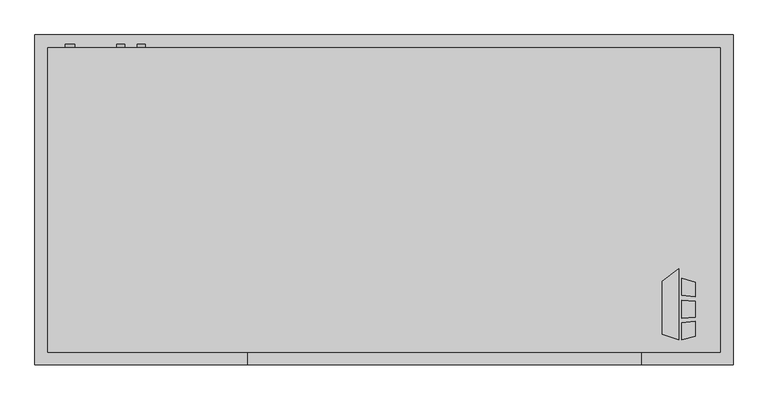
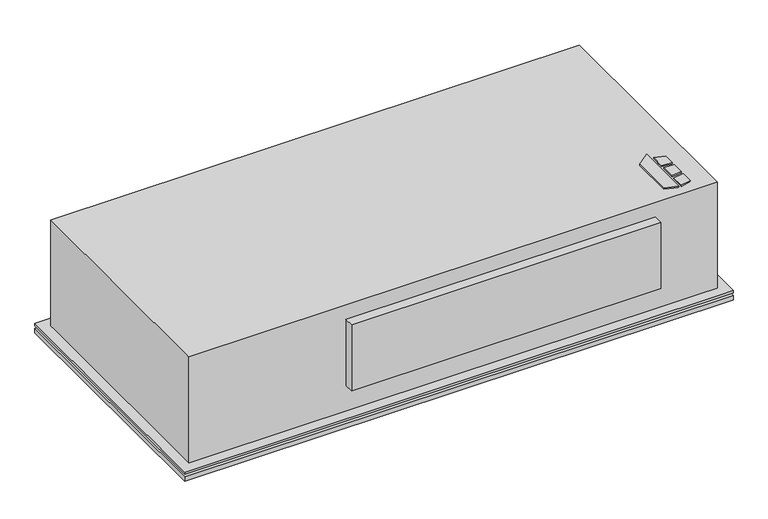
"""IFC4 building model written with IfcOpenShell, lengths in millimetres: proxy geometry, Horizontal_Telescoping_Fan_Coil_Unit_-_CBY_-_IEC_-_2-Pipe_Cool-EHeat_LH_2022 : Size 06 - 277v/60Hz/1Ph - 4 Row 6.0kW."""

from ifc_helpers import new_model, si_unit, point, frame, frame_2d, origin, origin_with_axes, place, context, project, spatial, polyline, circle_curve, trimmed, segment, composite_curve, outline, extrude, source, transform, mapped, element, save


def mechanical_equipment_a935bf6d(model_context):
    return source(origin(), model_context, "Body", "SweptSolid", [
        extrude(outline(polyline([(709.3019761, -401.0078476), (741.8602728, -375.5705184), (741.8602728, -517.525), (709.3019761, -507.3054201), (709.3019761, -401.0078476)])), origin_with_axes(), (0.0, 0.0, 1.0), 3.175),
        extrude(outline(polyline([(748.6186058, -428.879852), (748.6186058, -394.3999379), (774.7, -402.5865115), (774.7, -432.0822446), (748.6186058, -428.879852)])), origin_with_axes(), (0.0, 0.0, 1.0), 3.175),
        extrude(outline(polyline([(774.7, -510.5365115), (748.6186058, -517.525), (748.6186058, -484.3036996), (774.7, -480.7618564), (774.7, -510.5365115)])), origin_with_axes(), (0.0, 0.0, 1.0), 3.175),
        extrude(outline(polyline([(774.7, -441.1638277), (774.7, -472.413983), (748.6186058, -475.155248), (748.6186058, -439.2975378), (774.7, -441.1638277)])), origin_with_axes(), (0.0, 0.0, 1.0), 3.175),
        extrude(outline(composite_curve([segment(trimmed(circle_curve(frame_2d((-55.9967777, -333.375)), 7.9375), [point((-55.9967777, -325.4375))], [point((-55.9967777, -341.3125))], False, "CARTESIAN"), True, "CONTINUOUS"), segment(trimmed(circle_curve(frame_2d((-55.9967777, -333.375)), 7.9375), [point((-55.9967777, -341.3125))], [point((-55.9967777, -325.4375))], False, "CARTESIAN"), True, "CONTINUOUS")], self_intersect=False)), frame((0.0, 66.675, 0.0), z_axis=(0.0, 1.0, 0.0), x_axis=(0.0, 0.0, 1.0)), (0.0, 0.0, 1.0), 6.35),
        extrude(outline(composite_curve([segment(trimmed(circle_curve(frame_2d((-122.5981268, -374.65)), 7.9375), [point((-122.5981268, -366.7125))], [point((-122.5981268, -382.5875))], False, "CARTESIAN"), True, "CONTINUOUS"), segment(trimmed(circle_curve(frame_2d((-122.5981268, -374.65)), 7.9375), [point((-122.5981268, -382.5875))], [point((-122.5981268, -366.7125))], False, "CARTESIAN"), True, "CONTINUOUS")], self_intersect=False)), frame((0.0, 66.675, 0.0), z_axis=(0.0, 1.0, 0.0), x_axis=(0.0, 0.0, 1.0)), (0.0, 0.0, 1.0), 6.35),
        extrude(outline(composite_curve([segment(trimmed(circle_curve(frame_2d((-247.6037358, -476.25)), 9.525), [point((-247.6037358, -466.725))], [point((-247.6037358, -485.775))], False, "CARTESIAN"), True, "CONTINUOUS"), segment(trimmed(circle_curve(frame_2d((-247.6037358, -476.25)), 9.525), [point((-247.6037358, -485.775))], [point((-247.6037358, -466.725))], False, "CARTESIAN"), True, "CONTINUOUS")], self_intersect=False)), frame((0.0, 66.675, 0.0), z_axis=(0.0, 1.0, 0.0), x_axis=(0.0, 0.0, 1.0)), (0.0, 0.0, 1.0), 6.35),
        extrude(outline(polyline([(850.9, 92.075), (850.9, -568.325), (-546.1, -568.325), (-546.1, 92.075), (850.9, 92.075)])), frame((0.0, 0.0, -311.15), z_axis=(0.0, 0.0, 1.0), x_axis=(1.0, 0.0, 0.0)), (0.0, 0.0, 1.0), 12.7),
        extrude(outline(polyline([(850.9, 92.075), (850.9, -568.325), (-546.1, -568.325), (-546.1, 92.075), (850.9, 92.075)])), frame((0.0, 0.0, -292.1), z_axis=(0.0, 0.0, 1.0), x_axis=(1.0, 0.0, 0.0)), (0.0, 0.0, 1.0), 6.35),
        extrude(outline(polyline([(825.5, 66.675), (825.5, -542.925), (-520.7, -542.925), (-520.7, 66.675), (825.5, 66.675)])), frame((0.0, 0.0, -298.45), z_axis=(0.0, 0.0, 1.0), x_axis=(1.0, 0.0, 0.0)), (0.0, 0.0, 1.0), 6.35),
        extrude(outline(polyline([(666.75, -568.325), (-120.65, -568.325), (-120.65, -542.925), (666.75, -542.925), (666.75, -568.325)])), frame((0.0, 0.0, -215.9), z_axis=(0.0, 0.0, 1.0), x_axis=(1.0, 0.0, 0.0)), (0.0, 0.0, 1.0), 177.8),
        extrude(outline(polyline([(-520.7, 66.675), (825.5, 66.675), (825.5, -542.925), (-520.7, -542.925), (-520.7, 66.675)])), frame((0.0, 0.0, -285.75), z_axis=(0.0, 0.0, 1.0), x_axis=(1.0, 0.0, 0.0)), (0.0, 0.0, 1.0), 285.75),
        extrude(outline(polyline([(723.9, -9.525), (723.9, -263.525), (-419.1, -263.525), (-419.1, -9.525), (723.9, -9.525)])), frame((0.0, 0.0, -317.5), z_axis=(0.0, 0.0, 1.0), x_axis=(1.0, 0.0, 0.0)), (0.0, 0.0, 1.0), 6.35),
    ])


if __name__ == "__main__":
    model = new_model("IFC4")
    model_context = context("Model", 3, world=origin())
    ifc_project = project(units=[si_unit("LENGTHUNIT", "METRE", prefix="MILLI")], contexts=[model_context])
    site = spatial("IfcSite", under=ifc_project)
    building = spatial("IfcBuilding", under=site)
    placement = place(None, origin())
    mechanical_equipment_shape = mechanical_equipment_a935bf6d(model_context)
    element("IfcBuildingElementProxy", 1, Name="Horizontal_Telescoping_Fan_Coil_Unit_-_CBY_-_IEC_-_2-Pipe_Cool-EHeat_LH_2022 : Size 06 - 277v/60Hz/1Ph - 4 Row 6.0kW", ObjectType="Horizontal_Telescoping_Fan_Coil_Unit_-_CBY_-_IEC_-_2-Pipe_Cool-EHeat_LH_2022 : Size 06 - 277v/60Hz/1Ph - 4 Row 6.0kW", at=placement, inside=building, context=model_context, shape_type="MappedRepresentation", body=[
        mapped(mechanical_equipment_shape, transform((0.0, 0.0, 0.0), x_axis=(1.0, 0.0, 0.0), y_axis=(0.0, 1.0, 0.0), z_axis=(0.0, 0.0, 1.0))),
    ])
    save(model, "model.ifc")
